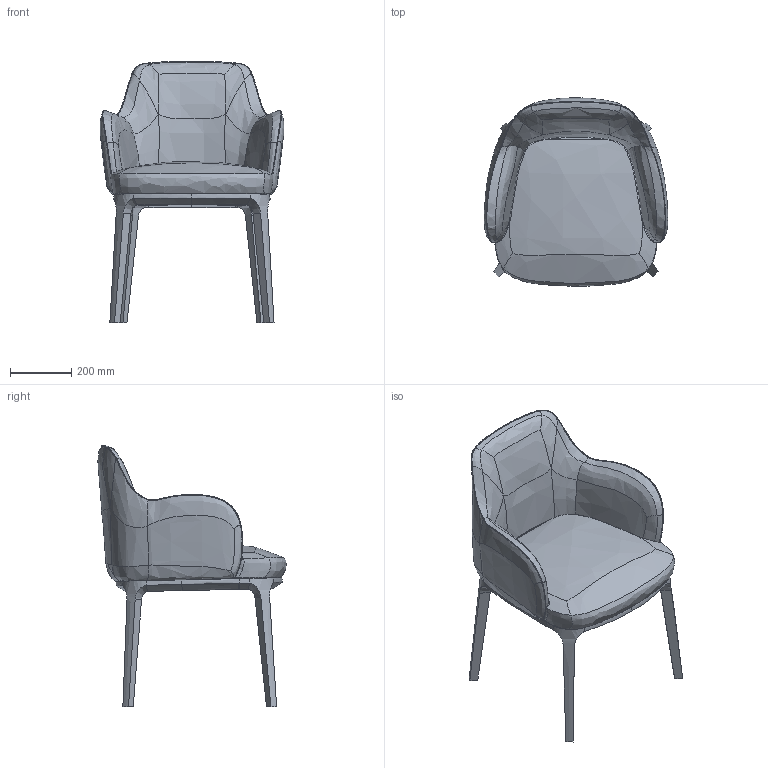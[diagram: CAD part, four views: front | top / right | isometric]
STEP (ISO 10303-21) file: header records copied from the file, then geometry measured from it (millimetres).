
FILE_DESCRIPTION(/* description */ (''),/* implementation_level */ '2;1');
FILE_NAME(/* name */ 'C:\Users\simone\Dropbox\3DTECH\Cassina - Catalogo Custom Interiors\MODELLI 3D\DEFINITIVI\ESPORTATI\IN-OUT CHAIR- SIN CHAIR\IN-OUT CHAIR- COMPLETA.stp',/* time_stamp */ '2021-10-27T10:33:48+07:00',/* author */ ('simone'),/* organization */ (''),/* preprocessor_version */ 'ST-DEVELOPER v18.1',/* originating_system */ 'Autodesk Inventor 2022',/* authorisation */ '');
FILE_SCHEMA (('AUTOMOTIVE_DESIGN { 1 0 10303 214 3 1 1 }'));
Length unit declared in the file: millimetre
Products named in the file (1): IN-OUT CHAIR- COMPLETA
Bounding box: 597.67 x 613.24 x 850.95 mm (x, y, z)
Volume: 51562598.2 mm3; surface area: 1919259.5 mm2
Topology: 6 solids, 6 shells, 209 faces, 533 edges, 330 vertices
Faces by surface type: bspline 182, plane 16, cylinder 9, cone 2
Entity records: 22963 total; most frequent: CARTESIAN_POINT 19061, ORIENTED_EDGE 1054, EDGE_CURVE 527, B_SPLINE_CURVE_WITH_KNOTS 395, VERTEX_POINT 330, DIRECTION 248, EDGE_LOOP 211, FACE_OUTER_BOUND 209
